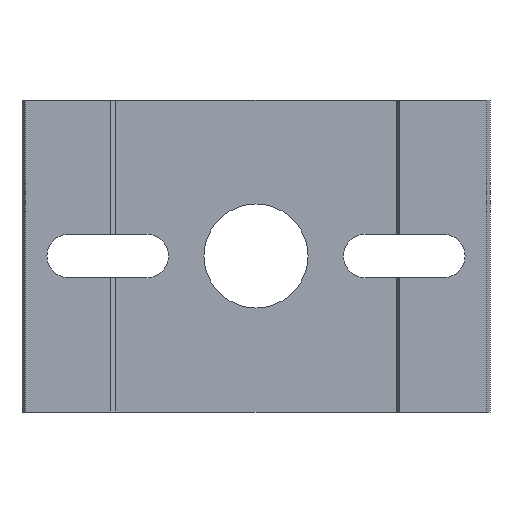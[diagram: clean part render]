
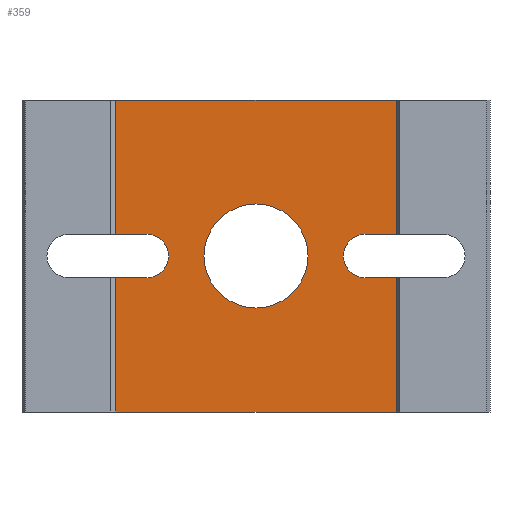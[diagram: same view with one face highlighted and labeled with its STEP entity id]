
A CAD part, front view. The second image highlights one B-rep face of the part: STEP entity #359.
In plain terms, the highlighted planar face has unit normal (0, -1, 0).
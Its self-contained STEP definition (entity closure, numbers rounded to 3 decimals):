
#77 = DIRECTION ( 'NONE',  ( 0., 1., 0. ) ) ;
#93 = CARTESIAN_POINT ( 'NONE',  ( 19.412, -11.944, 78.5 ) ) ;
#137 = DIRECTION ( 'NONE',  ( 0., 0., 1. ) ) ;
#156 = LINE ( 'NONE', #594, #213 ) ;
#183 = CARTESIAN_POINT ( 'NONE',  ( -15.588, -11.944, 78.5 ) ) ;
#186 = CARTESIAN_POINT ( 'NONE',  ( -20.588, -11.944, 71.5 ) ) ;
#194 = CARTESIAN_POINT ( 'NONE',  ( -20.588, -11.944, 100. ) ) ;
#202 = CARTESIAN_POINT ( 'NONE',  ( -20.588, -11.944, 50. ) ) ;
#213 = VECTOR ( 'NONE', #603, 1000. ) ;
#217 = CIRCLE ( 'NONE', #3627, 3.5 ) ;
#237 = VERTEX_POINT ( 'NONE', #1106 ) ;
#284 = VERTEX_POINT ( 'NONE', #859 ) ;
#287 = VERTEX_POINT ( 'NONE', #2006 ) ;
#345 = ORIENTED_EDGE ( 'NONE', *, *, #1779, .T. ) ;
#359 = ADVANCED_FACE ( 'NONE', ( #1823, #3357 ), #3583, .F. ) ;
#388 = VERTEX_POINT ( 'NONE', #1506 ) ;
#408 = CARTESIAN_POINT ( 'NONE',  ( 1.912, -11.944, 75. ) ) ;
#415 = DIRECTION ( 'NONE',  ( 0., 0., 1. ) ) ;
#502 = AXIS2_PLACEMENT_3D ( 'NONE', #504, #1686, #1086 ) ;
#504 = CARTESIAN_POINT ( 'NONE',  ( 1.912, -11.944, 75. ) ) ;
#524 = EDGE_CURVE ( 'NONE', #1459, #1169, #1105, .T. ) ;
#594 = CARTESIAN_POINT ( 'NONE',  ( -20.588, -11.944, 100. ) ) ;
#603 = DIRECTION ( 'NONE',  ( -1., 0., 0. ) ) ;
#662 = EDGE_CURVE ( 'NONE', #2911, #3505, #2292, .T. ) ;
#693 = DIRECTION ( 'NONE',  ( 0., 0., 1. ) ) ;
#736 = ORIENTED_EDGE ( 'NONE', *, *, #3001, .T. ) ;
#828 = CIRCLE ( 'NONE', #2368, 8.334 ) ;
#833 = ORIENTED_EDGE ( 'NONE', *, *, #1353, .T. ) ;
#859 = CARTESIAN_POINT ( 'NONE',  ( -15.588, -11.944, 71.5 ) ) ;
#867 = LINE ( 'NONE', #1078, #1097 ) ;
#888 = DIRECTION ( 'NONE',  ( 1., 0., 0. ) ) ;
#898 = DIRECTION ( 'NONE',  ( 0., 1., 0. ) ) ;
#936 = CARTESIAN_POINT ( 'NONE',  ( -15.588, -11.944, 75. ) ) ;
#951 = AXIS2_PLACEMENT_3D ( 'NONE', #936, #1266, #3359 ) ;
#961 = VECTOR ( 'NONE', #693, 1000. ) ;
#963 = EDGE_CURVE ( 'NONE', #287, #1018, #217, .T. ) ;
#971 = ORIENTED_EDGE ( 'NONE', *, *, #662, .T. ) ;
#1004 = CARTESIAN_POINT ( 'NONE',  ( 24.412, -11.944, 50. ) ) ;
#1017 = DIRECTION ( 'NONE',  ( 0., 0., 1. ) ) ;
#1018 = VERTEX_POINT ( 'NONE', #93 ) ;
#1021 = DIRECTION ( 'NONE',  ( 0., 1., 0. ) ) ;
#1055 = CIRCLE ( 'NONE', #951, 3.5 ) ;
#1074 = VERTEX_POINT ( 'NONE', #1094 ) ;
#1078 = CARTESIAN_POINT ( 'NONE',  ( -20.588, -11.944, 78.5 ) ) ;
#1086 = DIRECTION ( 'NONE',  ( 0., 0., 1. ) ) ;
#1094 = CARTESIAN_POINT ( 'NONE',  ( 24.412, -11.944, 50. ) ) ;
#1097 = VECTOR ( 'NONE', #1956, 1000. ) ;
#1105 = LINE ( 'NONE', #2736, #2516 ) ;
#1106 = CARTESIAN_POINT ( 'NONE',  ( 1.912, -11.944, 66.666 ) ) ;
#1169 = VERTEX_POINT ( 'NONE', #194 ) ;
#1186 = CARTESIAN_POINT ( 'NONE',  ( -20.588, -11.944, 50. ) ) ;
#1212 = CARTESIAN_POINT ( 'NONE',  ( -20.588, -11.944, 71.5 ) ) ;
#1266 = DIRECTION ( 'NONE',  ( 0., 1., 0. ) ) ;
#1276 = DIRECTION ( 'NONE',  ( 0., 0., 1. ) ) ;
#1336 = CARTESIAN_POINT ( 'NONE',  ( 19.412, -11.944, 75. ) ) ;
#1353 = EDGE_CURVE ( 'NONE', #1971, #287, #2605, .T. ) ;
#1369 = EDGE_CURVE ( 'NONE', #3505, #1169, #156, .T. ) ;
#1442 = EDGE_CURVE ( 'NONE', #284, #3481, #2179, .T. ) ;
#1459 = VERTEX_POINT ( 'NONE', #2993 ) ;
#1506 = CARTESIAN_POINT ( 'NONE',  ( -20.588, -11.944, 50. ) ) ;
#1522 = CIRCLE ( 'NONE', #502, 8.334 ) ;
#1536 = LINE ( 'NONE', #202, #2139 ) ;
#1666 = VECTOR ( 'NONE', #3017, 1000. ) ;
#1686 = DIRECTION ( 'NONE',  ( 0., 1., 0. ) ) ;
#1745 = ORIENTED_EDGE ( 'NONE', *, *, #2598, .T. ) ;
#1779 = EDGE_CURVE ( 'NONE', #237, #3350, #1522, .T. ) ;
#1823 = FACE_BOUND ( 'NONE', #3101, .T. ) ;
#1889 = CARTESIAN_POINT ( 'NONE',  ( 1.912, -11.944, 83.334 ) ) ;
#1956 = DIRECTION ( 'NONE',  ( 1., 0., 0. ) ) ;
#1971 = VERTEX_POINT ( 'NONE', #2056 ) ;
#2006 = CARTESIAN_POINT ( 'NONE',  ( 19.412, -11.944, 71.5 ) ) ;
#2013 = DIRECTION ( 'NONE',  ( -1., 0., 0. ) ) ;
#2017 = ORIENTED_EDGE ( 'NONE', *, *, #3371, .F. ) ;
#2047 = VECTOR ( 'NONE', #2131, 1000. ) ;
#2056 = CARTESIAN_POINT ( 'NONE',  ( 24.412, -11.944, 71.5 ) ) ;
#2099 = VECTOR ( 'NONE', #137, 1000. ) ;
#2116 = ORIENTED_EDGE ( 'NONE', *, *, #963, .T. ) ;
#2118 = CARTESIAN_POINT ( 'NONE',  ( -20.588, -11.944, 71.5 ) ) ;
#2131 = DIRECTION ( 'NONE',  ( -1., 0., 0. ) ) ;
#2139 = VECTOR ( 'NONE', #2013, 1000. ) ;
#2179 = LINE ( 'NONE', #2118, #2047 ) ;
#2193 = CARTESIAN_POINT ( 'NONE',  ( 24.412, -11.944, 50. ) ) ;
#2247 = ORIENTED_EDGE ( 'NONE', *, *, #3118, .T. ) ;
#2291 = LINE ( 'NONE', #2193, #961 ) ;
#2292 = LINE ( 'NONE', #1004, #2938 ) ;
#2304 = EDGE_LOOP ( 'NONE', ( #2116, #3781, #971, #3343, #3524, #1745, #736, #3694, #2017, #2408, #2247, #833 ) ) ;
#2368 = AXIS2_PLACEMENT_3D ( 'NONE', #408, #77, #1017 ) ;
#2375 = DIRECTION ( 'NONE',  ( 0., 0., 1. ) ) ;
#2408 = ORIENTED_EDGE ( 'NONE', *, *, #3513, .F. ) ;
#2416 = VERTEX_POINT ( 'NONE', #183 ) ;
#2426 = LINE ( 'NONE', #3692, #2099 ) ;
#2461 = CARTESIAN_POINT ( 'NONE',  ( 24.412, -11.944, 78.5 ) ) ;
#2516 = VECTOR ( 'NONE', #1276, 1000. ) ;
#2598 = EDGE_CURVE ( 'NONE', #1459, #2416, #3047, .T. ) ;
#2605 = LINE ( 'NONE', #1212, #1666 ) ;
#2736 = CARTESIAN_POINT ( 'NONE',  ( -20.588, -11.944, 50. ) ) ;
#2803 = DIRECTION ( 'NONE',  ( 0., 0., 1. ) ) ;
#2911 = VERTEX_POINT ( 'NONE', #2461 ) ;
#2938 = VECTOR ( 'NONE', #415, 1000. ) ;
#2993 = CARTESIAN_POINT ( 'NONE',  ( -20.588, -11.944, 78.5 ) ) ;
#3001 = EDGE_CURVE ( 'NONE', #2416, #284, #1055, .T. ) ;
#3011 = ORIENTED_EDGE ( 'NONE', *, *, #3071, .T. ) ;
#3017 = DIRECTION ( 'NONE',  ( -1., 0., 0. ) ) ;
#3047 = LINE ( 'NONE', #3576, #3242 ) ;
#3071 = EDGE_CURVE ( 'NONE', #3350, #237, #828, .T. ) ;
#3101 = EDGE_LOOP ( 'NONE', ( #3011, #345 ) ) ;
#3118 = EDGE_CURVE ( 'NONE', #1074, #1971, #2291, .T. ) ;
#3242 = VECTOR ( 'NONE', #888, 1000. ) ;
#3267 = AXIS2_PLACEMENT_3D ( 'NONE', #1186, #898, #2375 ) ;
#3343 = ORIENTED_EDGE ( 'NONE', *, *, #1369, .T. ) ;
#3350 = VERTEX_POINT ( 'NONE', #1889 ) ;
#3357 = FACE_OUTER_BOUND ( 'NONE', #2304, .T. ) ;
#3359 = DIRECTION ( 'NONE',  ( 0., 0., 1. ) ) ;
#3371 = EDGE_CURVE ( 'NONE', #388, #3481, #2426, .T. ) ;
#3481 = VERTEX_POINT ( 'NONE', #186 ) ;
#3505 = VERTEX_POINT ( 'NONE', #3771 ) ;
#3513 = EDGE_CURVE ( 'NONE', #1074, #388, #1536, .T. ) ;
#3524 = ORIENTED_EDGE ( 'NONE', *, *, #524, .F. ) ;
#3576 = CARTESIAN_POINT ( 'NONE',  ( -20.588, -11.944, 78.5 ) ) ;
#3583 = PLANE ( 'NONE',  #3267 ) ;
#3627 = AXIS2_PLACEMENT_3D ( 'NONE', #1336, #1021, #2803 ) ;
#3692 = CARTESIAN_POINT ( 'NONE',  ( -20.588, -11.944, 50. ) ) ;
#3694 = ORIENTED_EDGE ( 'NONE', *, *, #1442, .T. ) ;
#3713 = EDGE_CURVE ( 'NONE', #1018, #2911, #867, .T. ) ;
#3771 = CARTESIAN_POINT ( 'NONE',  ( 24.412, -11.944, 100. ) ) ;
#3781 = ORIENTED_EDGE ( 'NONE', *, *, #3713, .T. ) ;
